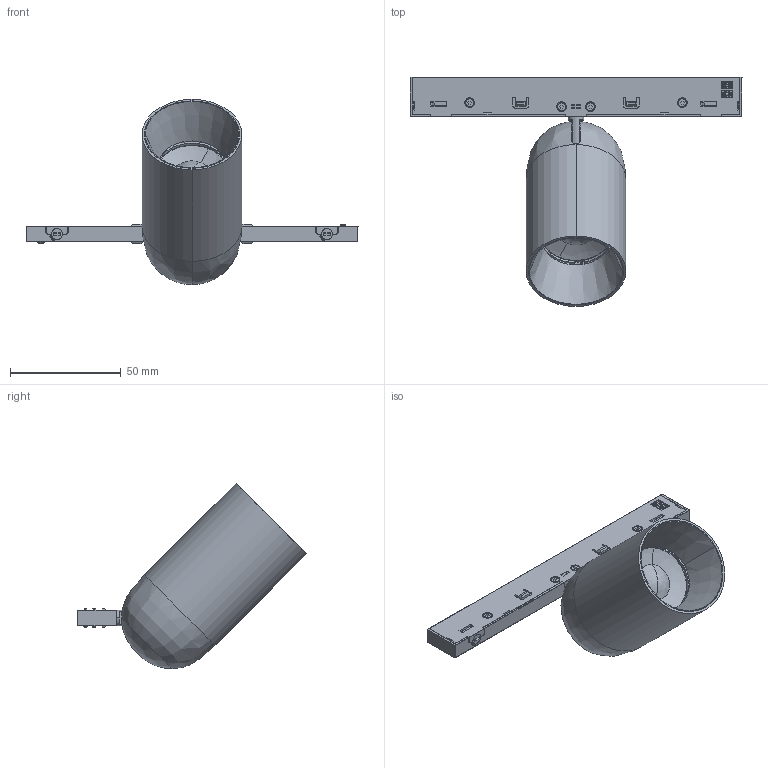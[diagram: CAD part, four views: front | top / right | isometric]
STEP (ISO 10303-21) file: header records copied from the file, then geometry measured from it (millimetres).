
FILE_DESCRIPTION (( 'STEP AP203' ), '1' );
FILE_NAME ('PK0212 Poke.STEP', '2025-08-02T07:05:24', ( '' ), ( '' ), 'SwSTEP 2.0', 'SolidWorks 2020', '' );
FILE_SCHEMA (( 'CONFIG_CONTROL_DESIGN' ));
Length unit declared in the file: millimetre
Products named in the file (19): KC-0006-0226.stp; M2_5-01.stp.STEP; 萇ん碟2.STEP; KC-0006-0301.stp.STEP; WT-35-03.stp; WT-35-02.stp; PK0212 Poke; BXRH-30G10T0-C-8X.stp; KC-0006-0222.stp; KC-0006-0220.stp; WT-35-01.stp; KC-0006-0303.stp.STEP; KC-0006-0004.stp.STEP; KC-0006-0302.stp.STEP; M2_5_5-01.stp; WT-35_ASM.stp; KC-0006-0221.stp; M3_6-02.stp; KC-0006-0169.stp
Assembly tree (29 placements, depth 3):
  PK0212 Poke
    萇ん碟2.STEP
      KC-0006-0301.stp.STEP
      KC-0006-0303.stp.STEP  x2
      KC-0006-0302.stp.STEP
      KC-0006-0004.stp.STEP  x4
      M2_5-01.stp.STEP  x4
    WT-35_ASM.stp
      WT-35-01.stp
      WT-35-02.stp
      WT-35-03.stp
      BXRH-30G10T0-C-8X.stp
      M3_6-02.stp  x2
    KC-0006-0222.stp
    KC-0006-0169.stp
    KC-0006-0220.stp
    M2_5_5-01.stp  x2
    KC-0006-0221.stp
    M3_6-02.stp  x2
    KC-0006-0226.stp
Bounding box: 150 x 103.51 x 83.71 mm (x, y, z)
Volume: 129062 mm3; surface area: 66543.2 mm2
Topology: 27 solids, 34 shells, 2339 faces, 6395 edges, 4117 vertices
Faces by surface type: plane 1092, cylinder 673, cone 325, bspline 169, sphere 44, torus 36
Entity records: 69437 total; most frequent: CARTESIAN_POINT 23225, ORIENTED_EDGE 9832, DIRECTION 8278, EDGE_CURVE 4916, VERTEX_POINT 3187, AXIS2_PLACEMENT_3D 2768, VECTOR 2742, LINE 2742
